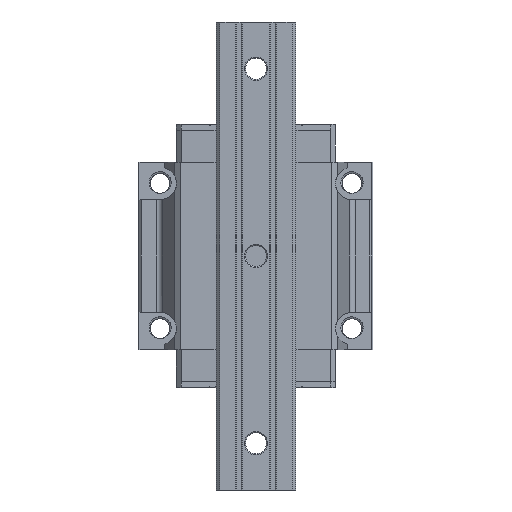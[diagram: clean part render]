
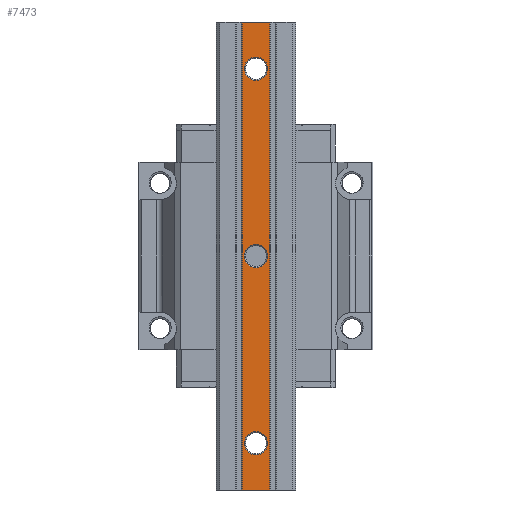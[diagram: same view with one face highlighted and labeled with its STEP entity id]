
A CAD part, front view. The second image highlights one B-rep face of the part: STEP entity #7473.
In plain terms, the highlighted planar face has unit normal (0, -1, 0).
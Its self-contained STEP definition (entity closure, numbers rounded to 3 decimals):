
#7094=FACE_BOUND('',#9845,.T.);
#7095=FACE_BOUND('',#9846,.T.);
#7096=FACE_BOUND('',#9847,.T.);
#7097=FACE_BOUND('',#9848,.T.);
#7473=ADVANCED_FACE('',(#7094,#7095,#7096,#7097),#8421,.T.);
#8421=PLANE('',#23566);
#9845=EDGE_LOOP('',(#11375,#11376,#11377,#11378));
#9846=EDGE_LOOP('',(#11379,#11380));
#9847=EDGE_LOOP('',(#11381,#11382));
#9848=EDGE_LOOP('',(#11383,#11384));
#10918=CIRCLE('',#23560,5.);
#10919=CIRCLE('',#23561,5.);
#10920=CIRCLE('',#23562,5.);
#10921=CIRCLE('',#23563,5.);
#10922=CIRCLE('',#23564,5.);
#10923=CIRCLE('',#23565,5.);
#11375=ORIENTED_EDGE('',*,*,#17975,.F.);
#11376=ORIENTED_EDGE('',*,*,#17976,.T.);
#11377=ORIENTED_EDGE('',*,*,#17977,.T.);
#11378=ORIENTED_EDGE('',*,*,#17920,.F.);
#11379=ORIENTED_EDGE('',*,*,#17978,.T.);
#11380=ORIENTED_EDGE('',*,*,#17979,.T.);
#11381=ORIENTED_EDGE('',*,*,#17980,.T.);
#11382=ORIENTED_EDGE('',*,*,#17981,.T.);
#11383=ORIENTED_EDGE('',*,*,#17982,.T.);
#11384=ORIENTED_EDGE('',*,*,#17983,.T.);
#16274=VERTEX_POINT('',#28750);
#16275=VERTEX_POINT('',#28752);
#16313=VERTEX_POINT('',#28860);
#16314=VERTEX_POINT('',#28864);
#16315=VERTEX_POINT('',#28867);
#16316=VERTEX_POINT('',#28868);
#16317=VERTEX_POINT('',#28871);
#16318=VERTEX_POINT('',#28872);
#16319=VERTEX_POINT('',#28875);
#16320=VERTEX_POINT('',#28876);
#17920=EDGE_CURVE('',#16274,#16275,#20409,.T.);
#17975=EDGE_CURVE('',#16313,#16274,#20454,.T.);
#17976=EDGE_CURVE('',#16313,#16314,#20455,.T.);
#17977=EDGE_CURVE('',#16314,#16275,#20456,.T.);
#17978=EDGE_CURVE('',#16315,#16316,#10918,.T.);
#17979=EDGE_CURVE('',#16316,#16315,#10919,.T.);
#17980=EDGE_CURVE('',#16317,#16318,#10920,.T.);
#17981=EDGE_CURVE('',#16318,#16317,#10921,.T.);
#17982=EDGE_CURVE('',#16319,#16320,#10922,.T.);
#17983=EDGE_CURVE('',#16320,#16319,#10923,.T.);
#20409=LINE('',#28751,#21906);
#20454=LINE('',#28861,#21951);
#20455=LINE('',#28863,#21952);
#20456=LINE('',#28865,#21953);
#21906=VECTOR('',#24735,1.);
#21951=VECTOR('',#24832,1.);
#21952=VECTOR('',#24835,1.);
#21953=VECTOR('',#24836,1.);
#23560=AXIS2_PLACEMENT_3D('',#28866,#24837,#24838);
#23561=AXIS2_PLACEMENT_3D('',#28869,#24839,#24840);
#23562=AXIS2_PLACEMENT_3D('',#28870,#24841,#24842);
#23563=AXIS2_PLACEMENT_3D('',#28873,#24843,#24844);
#23564=AXIS2_PLACEMENT_3D('',#28874,#24845,#24846);
#23565=AXIS2_PLACEMENT_3D('',#28877,#24847,#24848);
#23566=AXIS2_PLACEMENT_3D('',#28878,#24849,#24850);
#24735=DIRECTION('',(-1.,0.,0.));
#24832=DIRECTION('',(0.,0.,-1.));
#24835=DIRECTION('',(-1.,0.,0.));
#24836=DIRECTION('',(0.,0.,-1.));
#24837=DIRECTION('',(0.,1.,0.));
#24838=DIRECTION('',(1.,0.,0.));
#24839=DIRECTION('',(0.,1.,0.));
#24840=DIRECTION('',(-1.,0.,0.));
#24841=DIRECTION('',(0.,1.,0.));
#24842=DIRECTION('',(1.,0.,0.));
#24843=DIRECTION('',(0.,1.,0.));
#24844=DIRECTION('',(-1.,0.,0.));
#24845=DIRECTION('',(0.,1.,0.));
#24846=DIRECTION('',(1.,0.,0.));
#24847=DIRECTION('',(0.,1.,0.));
#24848=DIRECTION('',(-1.,0.,0.));
#24849=DIRECTION('',(0.,-1.,0.));
#24850=DIRECTION('',(1.,0.,0.));
#28750=CARTESIAN_POINT('',(5.85,-29.,-100.));
#28751=CARTESIAN_POINT('',(5.85,-29.,-100.));
#28752=CARTESIAN_POINT('',(-5.85,-29.,-100.));
#28860=CARTESIAN_POINT('',(5.85,-29.,100.));
#28861=CARTESIAN_POINT('',(5.85,-29.,100.));
#28863=CARTESIAN_POINT('',(5.85,-29.,100.));
#28864=CARTESIAN_POINT('',(-5.85,-29.,100.));
#28865=CARTESIAN_POINT('',(-5.85,-29.,100.));
#28866=CARTESIAN_POINT('',(0.,-29.,80.));
#28867=CARTESIAN_POINT('',(5.,-29.,80.));
#28868=CARTESIAN_POINT('',(-5.,-29.,80.));
#28869=CARTESIAN_POINT('',(0.,-29.,80.));
#28870=CARTESIAN_POINT('',(0.,-29.,0.));
#28871=CARTESIAN_POINT('',(5.,-29.,0.));
#28872=CARTESIAN_POINT('',(-5.,-29.,0.));
#28873=CARTESIAN_POINT('',(0.,-29.,0.));
#28874=CARTESIAN_POINT('',(0.,-29.,-80.));
#28875=CARTESIAN_POINT('',(5.,-29.,-80.));
#28876=CARTESIAN_POINT('',(-5.,-29.,-80.));
#28877=CARTESIAN_POINT('',(0.,-29.,-80.));
#28878=CARTESIAN_POINT('',(-5.85,-29.,-100.));
